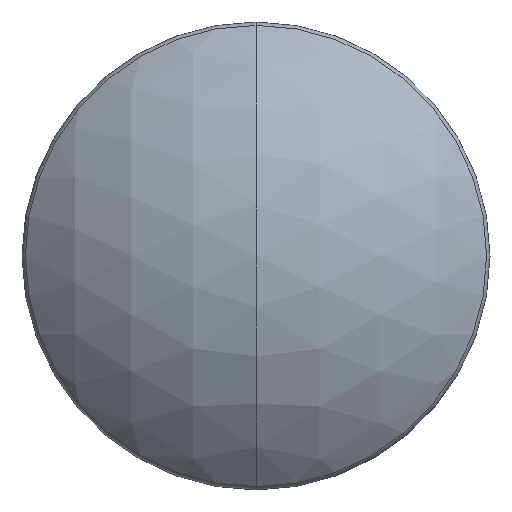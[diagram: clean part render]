
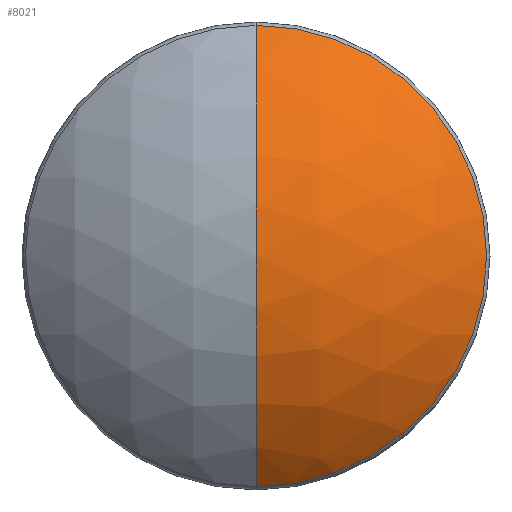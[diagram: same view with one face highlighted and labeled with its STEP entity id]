
A CAD part, top view. The second image highlights one B-rep face of the part: STEP entity #8021.
In plain terms, the highlighted spherical face has radius 8.379 mm.
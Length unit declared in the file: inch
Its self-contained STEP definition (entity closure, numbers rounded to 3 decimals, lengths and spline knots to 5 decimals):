
#2000=CARTESIAN_POINT('',(0.,0.,-0.32988));
#2001=DIRECTION('',(1.,0.,0.));
#2002=DIRECTION('',(0.,0.701,0.714));
#2003=AXIS2_PLACEMENT_3D('',#2000,#2001,#2002);
#2005=CARTESIAN_POINT('',(0.,0.,-0.09446));
#2006=DIRECTION('',(0.,0.,1.));
#2007=DIRECTION('',(0.,-1.,0.));
#2008=AXIS2_PLACEMENT_3D('',#2005,#2006,#2007);
#2010=CARTESIAN_POINT('',(0.,0.,-0.32988));
#2011=DIRECTION('',(-1.,0.,0.));
#2012=DIRECTION('',(0.,-0.701,0.714));
#2013=AXIS2_PLACEMENT_3D('',#2010,#2011,#2012);
#2901=CARTESIAN_POINT('',(0.,0.23109,-0.09446));
#2903=VERTEX_POINT('',#2901);
#2908=CARTESIAN_POINT('',(0.,-0.23109,-0.09446));
#2909=VERTEX_POINT('',#2908);
#2910=CARTESIAN_POINT('',(0.,0.,0.));
#2911=VERTEX_POINT('',#2910);
#8009=CARTESIAN_POINT('',(0.,0.,-0.32988));
#8010=DIRECTION('',(1.,0.,0.));
#8011=DIRECTION('',(0.,1.,0.));
#8012=AXIS2_PLACEMENT_3D('',#8009,#8010,#8011);
#8013=SPHERICAL_SURFACE('',#8012,0.32988);
#8015=ORIENTED_EDGE('',*,*,#8014,.F.);
#8016=ORIENTED_EDGE('',*,*,#7995,.F.);
#8018=ORIENTED_EDGE('',*,*,#8017,.T.);
#8019=EDGE_LOOP('',(#8015,#8016,#8018));
#8020=FACE_OUTER_BOUND('',#8019,.F.);
#2004=CIRCLE('',#2003,0.32988);
#2009=CIRCLE('',#2008,0.23109);
#2014=CIRCLE('',#2013,0.32988);
#7995=EDGE_CURVE('',#2909,#2903,#2009,.T.);
#8014=EDGE_CURVE('',#2903,#2911,#2004,.T.);
#8017=EDGE_CURVE('',#2909,#2911,#2014,.T.);
#8021=ADVANCED_FACE('',(#8020),#8013,.T.);
